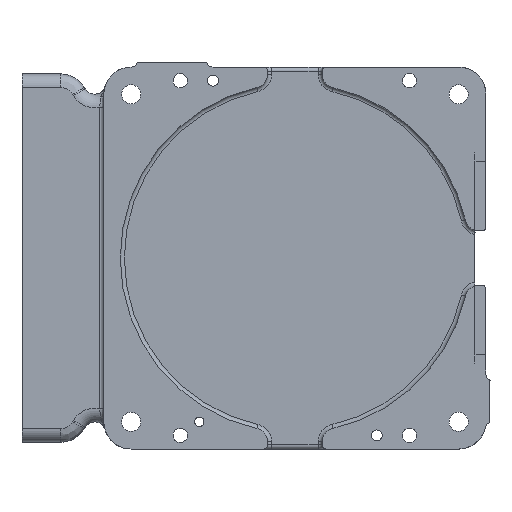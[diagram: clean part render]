
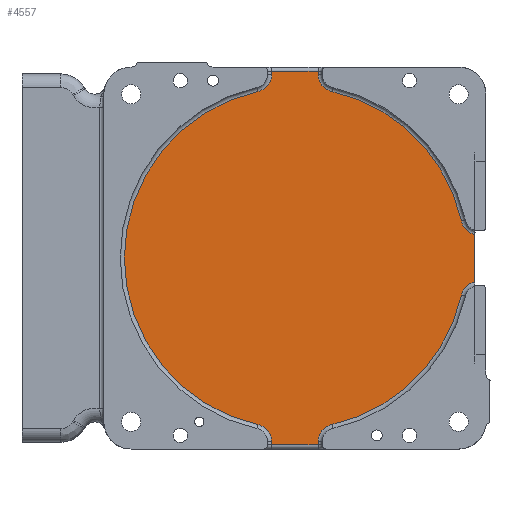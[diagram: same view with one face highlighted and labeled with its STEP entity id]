
A CAD part, front view. The second image highlights one B-rep face of the part: STEP entity #4557.
In plain terms, the highlighted planar face has unit normal (0, -1, 0).
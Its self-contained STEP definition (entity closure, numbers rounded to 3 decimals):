
#4557=ADVANCED_FACE('SPLSRF223',(#6890),#5458,.T.);
#5458=PLANE('',#32803);
#6890=FACE_OUTER_BOUND('',#8828,.T.);
#8828=EDGE_LOOP('',(#18492,#18493,#18494,#18495,#18496,#18497,#18498,#18499,
#18500,#18501,#18502,#18503,#18504,#18505,#18506,#18507));
#10335=LINE('',#75598,#11624);
#10336=LINE('',#75600,#11625);
#10337=LINE('',#75602,#11626);
#10338=LINE('',#75618,#11627);
#10339=LINE('',#75620,#11628);
#10340=LINE('',#75622,#11629);
#10357=LINE('',#76496,#11646);
#11624=VECTOR('',#38729,1.);
#11625=VECTOR('',#38732,1.);
#11626=VECTOR('',#38735,1.);
#11627=VECTOR('',#38758,1.);
#11628=VECTOR('',#38761,1.);
#11629=VECTOR('',#38764,1.);
#11646=VECTOR('',#38931,1.);
#18492=ORIENTED_EDGE('',*,*,#27557,.F.);
#18493=ORIENTED_EDGE('',*,*,#27558,.F.);
#18494=ORIENTED_EDGE('',*,*,#27472,.F.);
#18495=ORIENTED_EDGE('',*,*,#27470,.F.);
#18496=ORIENTED_EDGE('',*,*,#27468,.F.);
#18497=ORIENTED_EDGE('',*,*,#27467,.F.);
#18498=ORIENTED_EDGE('',*,*,#27466,.F.);
#18499=ORIENTED_EDGE('',*,*,#27464,.F.);
#18500=ORIENTED_EDGE('',*,*,#27462,.F.);
#18501=ORIENTED_EDGE('',*,*,#27460,.F.);
#18502=ORIENTED_EDGE('',*,*,#27458,.F.);
#18503=ORIENTED_EDGE('',*,*,#27457,.F.);
#18504=ORIENTED_EDGE('',*,*,#27456,.F.);
#18505=ORIENTED_EDGE('',*,*,#27453,.F.);
#18506=ORIENTED_EDGE('',*,*,#27498,.F.);
#18507=ORIENTED_EDGE('',*,*,#27559,.F.);
#23242=VERTEX_POINT('',#74146);
#23243=VERTEX_POINT('',#74150);
#23251=VERTEX_POINT('',#74184);
#23252=VERTEX_POINT('',#74188);
#23365=VERTEX_POINT('',#75593);
#23366=VERTEX_POINT('',#75594);
#23367=VERTEX_POINT('',#75603);
#23368=VERTEX_POINT('',#75607);
#23369=VERTEX_POINT('',#75611);
#23370=VERTEX_POINT('',#75615);
#23371=VERTEX_POINT('',#75623);
#23372=VERTEX_POINT('',#75627);
#23373=VERTEX_POINT('',#75631);
#23388=VERTEX_POINT('',#75727);
#23417=VERTEX_POINT('',#76497);
#23418=VERTEX_POINT('',#76498);
#27453=EDGE_CURVE('',#23365,#23366,#30124,.T.);
#27456=EDGE_CURVE('',#23366,#23242,#10335,.T.);
#27457=EDGE_CURVE('',#23242,#23243,#10336,.T.);
#27458=EDGE_CURVE('',#23243,#23367,#10337,.T.);
#27460=EDGE_CURVE('',#23367,#23368,#30128,.T.);
#27462=EDGE_CURVE('',#23368,#23369,#30130,.T.);
#27464=EDGE_CURVE('',#23369,#23370,#30132,.T.);
#27466=EDGE_CURVE('',#23370,#23251,#10338,.T.);
#27467=EDGE_CURVE('',#23251,#23252,#10339,.T.);
#27468=EDGE_CURVE('',#23252,#23371,#10340,.T.);
#27470=EDGE_CURVE('',#23371,#23372,#30135,.T.);
#27472=EDGE_CURVE('',#23372,#23373,#30137,.T.);
#27498=EDGE_CURVE('',#23388,#23365,#30153,.T.);
#27557=EDGE_CURVE('',#23417,#23418,#10357,.T.);
#27558=EDGE_CURVE('',#23373,#23417,#30180,.T.);
#27559=EDGE_CURVE('',#23418,#23388,#30181,.T.);
#30124=CIRCLE('',#32707,13.);
#30128=CIRCLE('',#32715,13.);
#30130=CIRCLE('',#32718,125.);
#30132=CIRCLE('',#32721,13.);
#30135=CIRCLE('',#32728,13.);
#30137=CIRCLE('',#32731,125.);
#30153=CIRCLE('',#32758,125.);
#30180=CIRCLE('',#32801,13.);
#30181=CIRCLE('',#32802,13.);
#32707=AXIS2_PLACEMENT_3D('',#75592,#38721,#38722);
#32715=AXIS2_PLACEMENT_3D('',#75606,#38740,#38741);
#32718=AXIS2_PLACEMENT_3D('',#75610,#38746,#38747);
#32721=AXIS2_PLACEMENT_3D('',#75614,#38752,#38753);
#32728=AXIS2_PLACEMENT_3D('',#75626,#38769,#38770);
#32731=AXIS2_PLACEMENT_3D('',#75630,#38775,#38776);
#32758=AXIS2_PLACEMENT_3D('',#75726,#38835,#38836);
#32801=AXIS2_PLACEMENT_3D('',#76499,#38932,#38933);
#32802=AXIS2_PLACEMENT_3D('',#76500,#38934,#38935);
#32803=AXIS2_PLACEMENT_3D('',#76501,#38936,#38937);
#38721=DIRECTION('',(0.,-1.,0.));
#38722=DIRECTION('',(-0.217,0.,0.976));
#38729=DIRECTION('',(0.,0.,-1.));
#38732=DIRECTION('',(-1.,0.,0.));
#38735=DIRECTION('',(0.,0.,1.));
#38740=DIRECTION('',(0.,-1.,0.));
#38741=DIRECTION('',(1.,0.,0.));
#38746=DIRECTION('',(0.,1.,0.));
#38747=DIRECTION('',(-0.217,0.,-0.976));
#38752=DIRECTION('',(0.,-1.,0.));
#38753=DIRECTION('',(0.217,0.,-0.976));
#38758=DIRECTION('',(0.,0.,1.));
#38761=DIRECTION('',(1.,0.,0.));
#38764=DIRECTION('',(0.,0.,-1.));
#38769=DIRECTION('',(0.,-1.,0.));
#38770=DIRECTION('',(-1.,0.,0.));
#38775=DIRECTION('',(0.,1.,0.));
#38776=DIRECTION('',(0.217,0.,0.976));
#38835=DIRECTION('',(0.,1.,0.));
#38836=DIRECTION('',(0.976,0.,-0.217));
#38931=DIRECTION('',(0.,0.,-1.));
#38932=DIRECTION('',(0.,-1.,0.));
#38933=DIRECTION('',(-0.976,0.,-0.217));
#38934=DIRECTION('',(0.,-1.,0.));
#38935=DIRECTION('',(-0.208,0.,0.978));
#38936=DIRECTION('',(0.,-1.,0.));
#38937=DIRECTION('',(1.,0.,0.));
#74146=CARTESIAN_POINT('',(17.,5.,-137.));
#74150=CARTESIAN_POINT('',(-17.,5.,-137.));
#74184=CARTESIAN_POINT('',(-17.,5.,137.));
#74188=CARTESIAN_POINT('',(17.,5.,137.));
#75592=CARTESIAN_POINT('',(30.,5.,-134.7));
#75593=CARTESIAN_POINT('',(27.174,5.,-122.011));
#75594=CARTESIAN_POINT('',(17.,5.,-134.7));
#75598=CARTESIAN_POINT('',(17.,5.,-134.7));
#75600=CARTESIAN_POINT('',(17.,5.,-137.));
#75602=CARTESIAN_POINT('',(-17.,5.,-137.));
#75603=CARTESIAN_POINT('',(-17.,5.,-134.7));
#75606=CARTESIAN_POINT('',(-30.,5.,-134.7));
#75607=CARTESIAN_POINT('',(-27.174,5.,-122.011));
#75610=CARTESIAN_POINT('',(0.,5.,0.));
#75611=CARTESIAN_POINT('',(-27.174,5.,122.011));
#75614=CARTESIAN_POINT('',(-30.,5.,134.7));
#75615=CARTESIAN_POINT('',(-17.,5.,134.7));
#75618=CARTESIAN_POINT('',(-17.,5.,134.7));
#75620=CARTESIAN_POINT('',(-17.,5.,137.));
#75622=CARTESIAN_POINT('',(17.,5.,137.));
#75623=CARTESIAN_POINT('',(17.,5.,134.7));
#75626=CARTESIAN_POINT('',(30.,5.,134.7));
#75627=CARTESIAN_POINT('',(27.174,5.,122.011));
#75630=CARTESIAN_POINT('',(0.,5.,0.));
#75631=CARTESIAN_POINT('',(122.011,5.,27.174));
#75726=CARTESIAN_POINT('',(0.,5.,0.));
#75727=CARTESIAN_POINT('',(122.011,5.,-27.174));
#76496=CARTESIAN_POINT('',(132.,5.,17.283));
#76497=CARTESIAN_POINT('',(132.,5.,17.283));
#76498=CARTESIAN_POINT('',(132.,5.,-17.283));
#76499=CARTESIAN_POINT('',(134.7,5.,30.));
#76500=CARTESIAN_POINT('',(134.7,5.,-30.));
#76501=CARTESIAN_POINT('',(-130.161,5.,-142.48));
